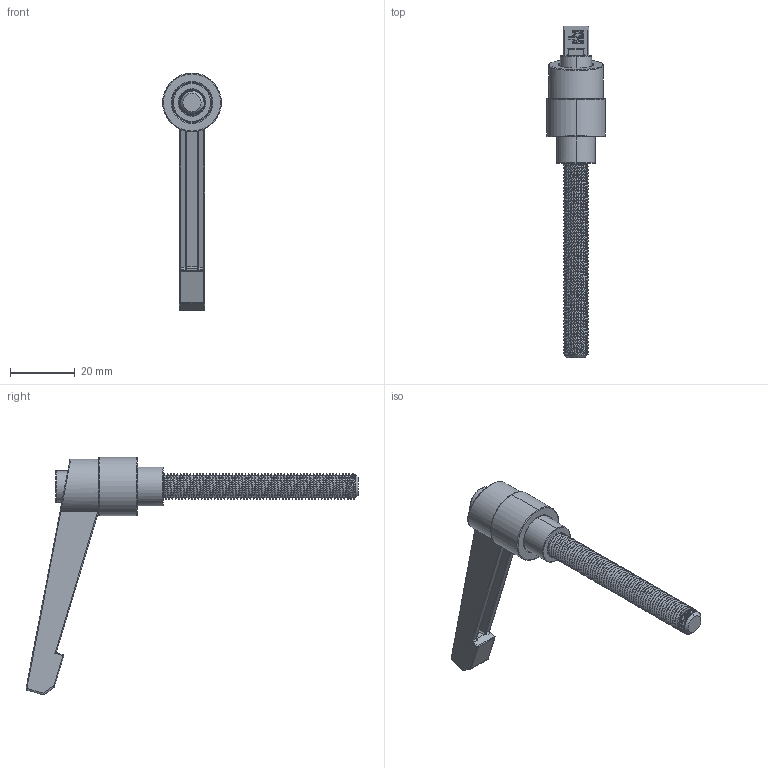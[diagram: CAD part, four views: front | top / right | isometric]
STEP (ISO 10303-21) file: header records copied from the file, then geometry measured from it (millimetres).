
FILE_DESCRIPTION (( 'STEP AP214' ), '1' );
FILE_NAME ('348.0307A.01.STEP', '2024-11-08T13:02:05', ( 'Àëåêñåé' ), ( '' ), 'SwSTEP 2.0', 'SolidWorks 2022', '' );
FILE_SCHEMA (( 'AUTOMOTIVE_DESIGN' ));
Length unit declared in the file: millimetre
Products named in the file (5): 348.0307A.01-3; 348.0307A.01; 348.0307A.01-1; 348.0307A.01-2; 348.0307A.01-4
Assembly tree (4 placements, depth 2):
  348.0307A.01
    348.0307A.01-1
    348.0307A.01-2
    348.0307A.01-3
    348.0307A.01-4
Bounding box: 18.1 x 102.32 x 73.28 mm (x, y, z)
Volume: 11194.8 mm3; surface area: 9173.2 mm2
Topology: 15 solids, 15 shells, 635 faces, 1607 edges, 948 vertices
Faces by surface type: cylinder 245, bspline 164, plane 129, torus 60, sphere 31, cone 6
Entity records: 38565 total; most frequent: CARTESIAN_POINT 24214, ORIENTED_EDGE 3090, DIRECTION 2279, EDGE_CURVE 1545, VERTEX_POINT 946, AXIS2_PLACEMENT_3D 875, EDGE_LOOP 647, ADVANCED_FACE 635
